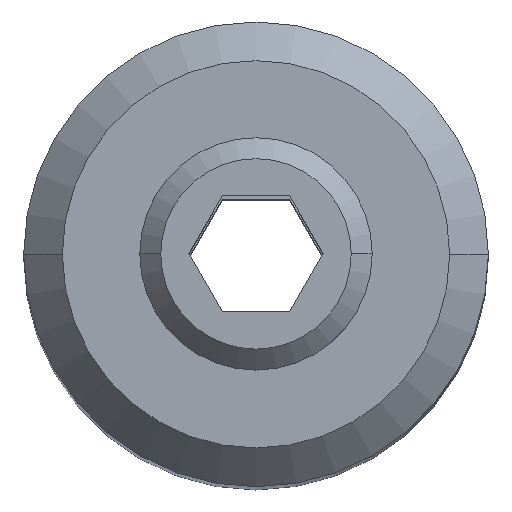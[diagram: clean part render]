
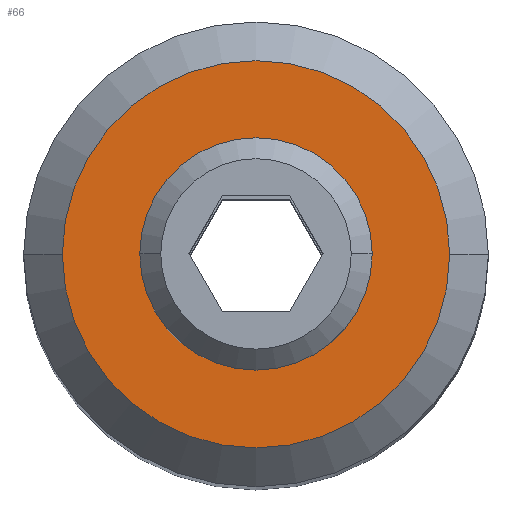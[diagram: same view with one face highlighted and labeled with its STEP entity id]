
A CAD part, top view. The second image highlights one B-rep face of the part: STEP entity #66.
In plain terms, the highlighted planar face has unit normal (0, 0, 1).
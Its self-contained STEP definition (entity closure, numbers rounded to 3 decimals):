
#9 = VERTEX_POINT ( 'NONE', #701 ) ;
#20 = ORIENTED_EDGE ( 'NONE', *, *, #339, .T. ) ;
#37 = DIRECTION ( 'NONE',  ( 1., 0., 0. ) ) ;
#39 = DIRECTION ( 'NONE',  ( 1., 0., 0. ) ) ;
#59 = DIRECTION ( 'NONE',  ( 0., 0., 1. ) ) ;
#65 = CARTESIAN_POINT ( 'NONE',  ( 0., 0., 12.5 ) ) ;
#66 = ADVANCED_FACE ( 'NONE', ( #376, #953 ), #290, .T. ) ;
#70 = EDGE_CURVE ( 'NONE', #100, #237, #380, .T. ) ;
#100 = VERTEX_POINT ( 'NONE', #805 ) ;
#115 = CARTESIAN_POINT ( 'NONE',  ( 0., 0., 12.5 ) ) ;
#146 = DIRECTION ( 'NONE',  ( 1., 0., 0. ) ) ;
#237 = VERTEX_POINT ( 'NONE', #905 ) ;
#277 = DIRECTION ( 'NONE',  ( 1., 0., 0. ) ) ;
#286 = CARTESIAN_POINT ( 'NONE',  ( 0., 0., 12.5 ) ) ;
#290 = PLANE ( 'NONE',  #347 ) ;
#297 = AXIS2_PLACEMENT_3D ( 'NONE', #115, #418, #37 ) ;
#298 = DIRECTION ( 'NONE',  ( 1., 0., 0. ) ) ;
#315 = ORIENTED_EDGE ( 'NONE', *, *, #70, .F. ) ;
#339 = EDGE_CURVE ( 'NONE', #831, #9, #482, .T. ) ;
#347 = AXIS2_PLACEMENT_3D ( 'NONE', #286, #583, #277 ) ;
#351 = CARTESIAN_POINT ( 'NONE',  ( 0., 0., 12.5 ) ) ;
#352 = EDGE_LOOP ( 'NONE', ( #20, #533 ) ) ;
#376 = FACE_BOUND ( 'NONE', #569, .T. ) ;
#380 = CIRCLE ( 'NONE', #878, 1.25 ) ;
#406 = CARTESIAN_POINT ( 'NONE',  ( -2.5, 0., 12.5 ) ) ;
#409 = EDGE_CURVE ( 'NONE', #237, #100, #752, .T. ) ;
#413 = AXIS2_PLACEMENT_3D ( 'NONE', #572, #59, #146 ) ;
#418 = DIRECTION ( 'NONE',  ( 0., 0., 1. ) ) ;
#424 = DIRECTION ( 'NONE',  ( 0., 0., 1. ) ) ;
#482 = CIRCLE ( 'NONE', #780, 2.5 ) ;
#503 = EDGE_CURVE ( 'NONE', #9, #831, #560, .T. ) ;
#533 = ORIENTED_EDGE ( 'NONE', *, *, #503, .T. ) ;
#560 = CIRCLE ( 'NONE', #413, 2.5 ) ;
#569 = EDGE_LOOP ( 'NONE', ( #666, #315 ) ) ;
#572 = CARTESIAN_POINT ( 'NONE',  ( 0., 0., 12.5 ) ) ;
#583 = DIRECTION ( 'NONE',  ( 0., 0., 1. ) ) ;
#649 = DIRECTION ( 'NONE',  ( 0., 0., 1. ) ) ;
#666 = ORIENTED_EDGE ( 'NONE', *, *, #409, .F. ) ;
#701 = CARTESIAN_POINT ( 'NONE',  ( 2.5, 0., 12.5 ) ) ;
#752 = CIRCLE ( 'NONE', #297, 1.25 ) ;
#780 = AXIS2_PLACEMENT_3D ( 'NONE', #351, #424, #39 ) ;
#805 = CARTESIAN_POINT ( 'NONE',  ( -1.25, 0., 12.5 ) ) ;
#831 = VERTEX_POINT ( 'NONE', #406 ) ;
#878 = AXIS2_PLACEMENT_3D ( 'NONE', #65, #649, #298 ) ;
#905 = CARTESIAN_POINT ( 'NONE',  ( 1.25, 0., 12.5 ) ) ;
#953 = FACE_OUTER_BOUND ( 'NONE', #352, .T. ) ;
